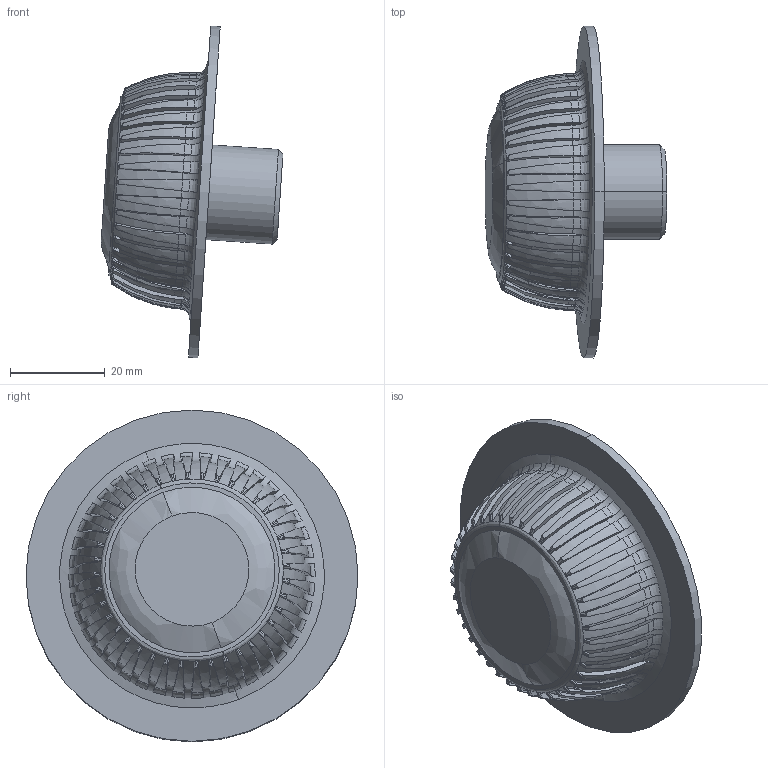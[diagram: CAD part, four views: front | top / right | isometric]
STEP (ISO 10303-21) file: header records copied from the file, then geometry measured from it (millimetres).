
FILE_DESCRIPTION (( 'STEP AP203' ), '1' );
FILE_NAME ('Molette blocage vertical_3_Défaut_sldprt.STEP', '2018-04-06T14:28:44', ( '' ), ( '' ), 'SwSTEP 2.0', 'SolidWorks 2013', '' );
FILE_SCHEMA (( 'CONFIG_CONTROL_DESIGN' ));
Length unit declared in the file: millimetre
Products named in the file (1): Molette blocage vertical_3_Défaut_sldprt
Bounding box: 38.33 x 70 x 69.98 mm (x, y, z)
Volume: 22650.3 mm3; surface area: 19778.3 mm2
Topology: 1 solids, 1 shells, 442 faces, 1198 edges, 771 vertices
Faces by surface type: bspline 231, plane 111, cylinder 58, cone 42
Entity records: 25439 total; most frequent: CARTESIAN_POINT 16247, ORIENTED_EDGE 2396, DIRECTION 1260, EDGE_CURVE 1198, VERTEX_POINT 771, B_SPLINE_CURVE_WITH_KNOTS 655, AXIS2_PLACEMENT_3D 560, EDGE_LOOP 455
